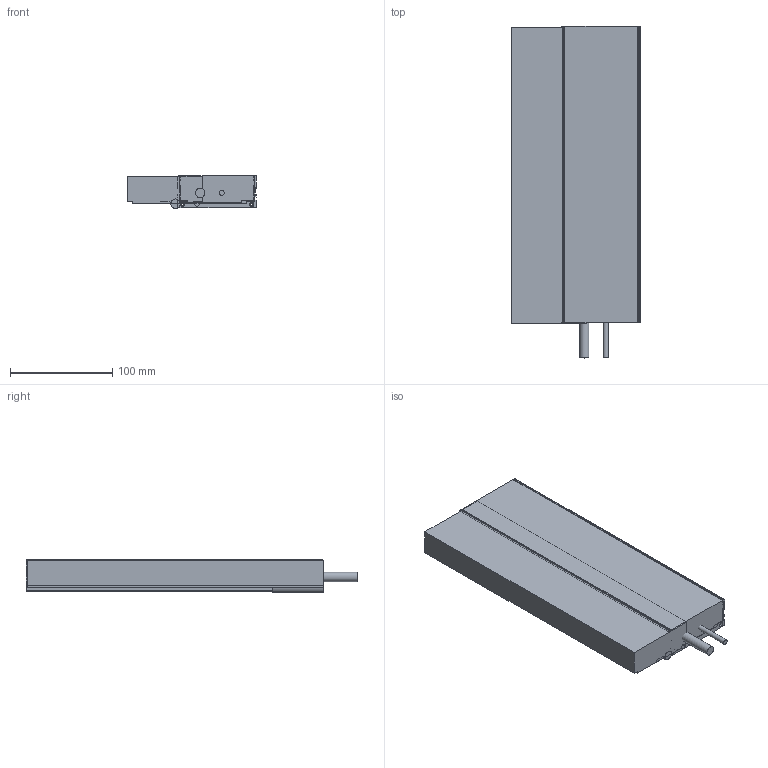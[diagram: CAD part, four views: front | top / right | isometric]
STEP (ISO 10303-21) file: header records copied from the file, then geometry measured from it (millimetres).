
FILE_DESCRIPTION( ( 'Unknown' ), '1' );
FILE_NAME( 'ML1115_01.stp', 'Unknown', ( 'Unknown' ), ( 'Unknown' ), 'XStep 1.0', 'Unknown', ' ' );
FILE_SCHEMA( ( 'CONFIG_CONTROL_DESIGN' ) );
Length unit declared in the file: millimetre
Products named in the file (6): Assem1; GietharsTL15; 4022 362 73254; 4022 362 72863; Kabels
Bounding box: 126.18 x 325 x 32.07 mm (x, y, z)
Surface area: 336262.6 mm2
Topology: 13 solids, 13 shells, 924 faces, 2672 edges, 1774 vertices
Faces by surface type: plane 714, cylinder 210
Full cylindrical faces by diameter (mm): 2.5 x8, 4.2 x14, 5 x6, 9.2 x2
Entity records: 13903 total; most frequent: CARTESIAN_POINT 2409, ORIENTED_EDGE 2376, DIRECTION 2278, EDGE_CURVE 1188, LINE 956, VECTOR 956, VERTEX_POINT 792, AXIS2_PLACEMENT_3D 661
